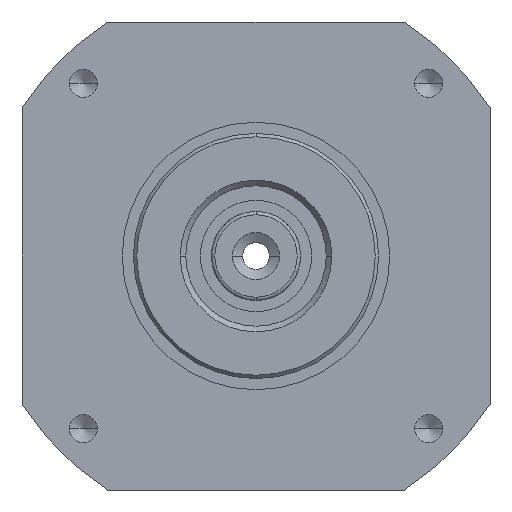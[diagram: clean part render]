
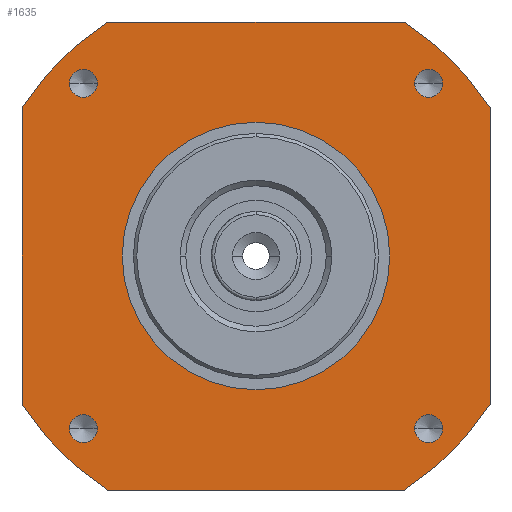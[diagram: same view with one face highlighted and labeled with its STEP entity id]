
A CAD part, front view. The second image highlights one B-rep face of the part: STEP entity #1635.
In plain terms, the highlighted free-form (B-spline) face has degree [1, 1] with [2, 2] control points.
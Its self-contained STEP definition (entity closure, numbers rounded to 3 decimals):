
#2=CARTESIAN_POINT('',(15.5,0.,-15.5));
#3=DIRECTION('',(0.,-1.,0.));
#4=DIRECTION('',(-1.,0.,0.));
#5=AXIS2_PLACEMENT_3D('',#2,#3,#4);
#7=CARTESIAN_POINT('',(15.5,0.,-15.5));
#8=DIRECTION('',(0.,-1.,0.));
#9=DIRECTION('',(1.,0.,0.));
#10=AXIS2_PLACEMENT_3D('',#7,#8,#9);
#12=CARTESIAN_POINT('',(15.5,0.,15.5));
#13=DIRECTION('',(0.,-1.,0.));
#14=DIRECTION('',(-1.,0.,0.));
#15=AXIS2_PLACEMENT_3D('',#12,#13,#14);
#17=CARTESIAN_POINT('',(15.5,0.,15.5));
#18=DIRECTION('',(0.,-1.,0.));
#19=DIRECTION('',(1.,0.,0.));
#20=AXIS2_PLACEMENT_3D('',#17,#18,#19);
#22=CARTESIAN_POINT('',(-15.5,0.,-15.5));
#23=DIRECTION('',(0.,-1.,0.));
#24=DIRECTION('',(-1.,0.,0.));
#25=AXIS2_PLACEMENT_3D('',#22,#23,#24);
#27=CARTESIAN_POINT('',(-15.5,0.,-15.5));
#28=DIRECTION('',(0.,-1.,0.));
#29=DIRECTION('',(1.,0.,0.));
#30=AXIS2_PLACEMENT_3D('',#27,#28,#29);
#32=CARTESIAN_POINT('',(-15.5,0.,15.5));
#33=DIRECTION('',(0.,-1.,0.));
#34=DIRECTION('',(-1.,0.,0.));
#35=AXIS2_PLACEMENT_3D('',#32,#33,#34);
#37=CARTESIAN_POINT('',(-15.5,0.,15.5));
#38=DIRECTION('',(0.,-1.,0.));
#39=DIRECTION('',(1.,0.,0.));
#40=AXIS2_PLACEMENT_3D('',#37,#38,#39);
#42=CARTESIAN_POINT('',(0.,0.,0.));
#43=DIRECTION('',(0.,-1.,0.));
#44=DIRECTION('',(-1.,0.,0.));
#45=AXIS2_PLACEMENT_3D('',#42,#43,#44);
#47=CARTESIAN_POINT('',(0.,0.,0.));
#48=DIRECTION('',(0.,-1.,0.));
#49=DIRECTION('',(1.,0.,0.));
#50=AXIS2_PLACEMENT_3D('',#47,#48,#49);
#52=CARTESIAN_POINT('',(0.,0.,0.));
#53=DIRECTION('',(0.,-1.,0.));
#54=DIRECTION('',(-0.845,0.,-0.535));
#55=AXIS2_PLACEMENT_3D('',#52,#53,#54);
#57=DIRECTION('',(0.,0.,1.));
#58=VECTOR('',#57,26.572);
#59=CARTESIAN_POINT('',(-21.,0.,-13.286));
#60=LINE('',#59,#58);
#61=CARTESIAN_POINT('',(0.,0.,0.));
#62=DIRECTION('',(0.,-1.,0.));
#63=DIRECTION('',(-0.535,0.,0.845));
#64=AXIS2_PLACEMENT_3D('',#61,#62,#63);
#66=DIRECTION('',(1.,0.,0.));
#67=VECTOR('',#66,26.572);
#68=CARTESIAN_POINT('',(-13.286,0.,21.));
#69=LINE('',#68,#67);
#70=CARTESIAN_POINT('',(0.,0.,0.));
#71=DIRECTION('',(0.,-1.,0.));
#72=DIRECTION('',(0.845,0.,0.535));
#73=AXIS2_PLACEMENT_3D('',#70,#71,#72);
#75=DIRECTION('',(0.,0.,-1.));
#76=VECTOR('',#75,26.572);
#77=CARTESIAN_POINT('',(21.,0.,13.286));
#78=LINE('',#77,#76);
#79=CARTESIAN_POINT('',(0.,0.,0.));
#80=DIRECTION('',(0.,-1.,0.));
#81=DIRECTION('',(0.535,0.,-0.845));
#82=AXIS2_PLACEMENT_3D('',#79,#80,#81);
#84=DIRECTION('',(-1.,0.,0.));
#85=VECTOR('',#84,26.572);
#86=CARTESIAN_POINT('',(13.286,0.,-21.));
#87=LINE('',#86,#85);
#1348=CARTESIAN_POINT('',(14.25,0.,-15.5));
#1349=CARTESIAN_POINT('',(16.75,0.,-15.5));
#1350=VERTEX_POINT('',#1348);
#1351=VERTEX_POINT('',#1349);
#1358=CARTESIAN_POINT('',(14.25,0.,15.5));
#1359=CARTESIAN_POINT('',(16.75,0.,15.5));
#1360=VERTEX_POINT('',#1358);
#1361=VERTEX_POINT('',#1359);
#1368=CARTESIAN_POINT('',(-16.75,0.,-15.5));
#1369=CARTESIAN_POINT('',(-14.25,0.,-15.5));
#1370=VERTEX_POINT('',#1368);
#1371=VERTEX_POINT('',#1369);
#1378=CARTESIAN_POINT('',(-16.75,0.,15.5));
#1379=CARTESIAN_POINT('',(-14.25,0.,15.5));
#1380=VERTEX_POINT('',#1378);
#1381=VERTEX_POINT('',#1379);
#1410=CARTESIAN_POINT('',(-12.,0.,0.));
#1411=CARTESIAN_POINT('',(12.,0.,0.));
#1412=VERTEX_POINT('',#1410);
#1413=VERTEX_POINT('',#1411);
#1414=CARTESIAN_POINT('',(-21.,0.,-13.286));
#1415=CARTESIAN_POINT('',(-13.286,0.,-21.));
#1416=VERTEX_POINT('',#1414);
#1417=VERTEX_POINT('',#1415);
#1418=CARTESIAN_POINT('',(13.286,0.,-21.));
#1419=CARTESIAN_POINT('',(21.,0.,-13.286));
#1420=VERTEX_POINT('',#1418);
#1421=VERTEX_POINT('',#1419);
#1426=CARTESIAN_POINT('',(21.,0.,13.286));
#1427=CARTESIAN_POINT('',(13.286,0.,21.));
#1428=VERTEX_POINT('',#1426);
#1429=VERTEX_POINT('',#1427);
#1430=CARTESIAN_POINT('',(-13.286,0.,21.));
#1431=CARTESIAN_POINT('',(-21.,0.,13.286));
#1432=VERTEX_POINT('',#1430);
#1433=VERTEX_POINT('',#1431);
#1582=CARTESIAN_POINT('',(-21.84,0.,21.84));
#1583=CARTESIAN_POINT('',(-21.84,0.,-21.84));
#1584=CARTESIAN_POINT('',(21.84,0.,21.84));
#1585=CARTESIAN_POINT('',(21.84,0.,-21.84));
#1586=B_SPLINE_SURFACE_WITH_KNOTS('',1,1,((#1582,#1583),(#1584,#1585)),
.UNSPECIFIED.,.F.,.F.,.F.,(2,2),(2,2),(-21.84,21.84),(-21.84,21.84),
.UNSPECIFIED.);
#1588=ORIENTED_EDGE('',*,*,#1587,.F.);
#1590=ORIENTED_EDGE('',*,*,#1589,.T.);
#1592=ORIENTED_EDGE('',*,*,#1591,.F.);
#1594=ORIENTED_EDGE('',*,*,#1593,.T.);
#1596=ORIENTED_EDGE('',*,*,#1595,.F.);
#1598=ORIENTED_EDGE('',*,*,#1597,.T.);
#1600=ORIENTED_EDGE('',*,*,#1599,.F.);
#1602=ORIENTED_EDGE('',*,*,#1601,.T.);
#1603=EDGE_LOOP('',(#1588,#1590,#1592,#1594,#1596,#1598,#1600,#1602));
#1604=FACE_OUTER_BOUND('',#1603,.F.);
#1606=ORIENTED_EDGE('',*,*,#1605,.T.);
#1608=ORIENTED_EDGE('',*,*,#1607,.T.);
#1609=EDGE_LOOP('',(#1606,#1608));
#1610=FACE_BOUND('',#1609,.F.);
#1612=ORIENTED_EDGE('',*,*,#1611,.T.);
#1614=ORIENTED_EDGE('',*,*,#1613,.T.);
#1615=EDGE_LOOP('',(#1612,#1614));
#1616=FACE_BOUND('',#1615,.F.);
#1618=ORIENTED_EDGE('',*,*,#1617,.T.);
#1620=ORIENTED_EDGE('',*,*,#1619,.T.);
#1621=EDGE_LOOP('',(#1618,#1620));
#1622=FACE_BOUND('',#1621,.F.);
#1624=ORIENTED_EDGE('',*,*,#1623,.T.);
#1626=ORIENTED_EDGE('',*,*,#1625,.T.);
#1627=EDGE_LOOP('',(#1624,#1626));
#1628=FACE_BOUND('',#1627,.F.);
#1630=ORIENTED_EDGE('',*,*,#1629,.T.);
#1632=ORIENTED_EDGE('',*,*,#1631,.T.);
#1633=EDGE_LOOP('',(#1630,#1632));
#1634=FACE_BOUND('',#1633,.F.);
#1635=ADVANCED_FACE('',(#1604,#1610,#1616,#1622,#1628,#1634),#1586,.F.);
#6=CIRCLE('',#5,1.25);
#11=CIRCLE('',#10,1.25);
#16=CIRCLE('',#15,1.25);
#21=CIRCLE('',#20,1.25);
#26=CIRCLE('',#25,1.25);
#31=CIRCLE('',#30,1.25);
#36=CIRCLE('',#35,1.25);
#41=CIRCLE('',#40,1.25);
#46=CIRCLE('',#45,12.);
#51=CIRCLE('',#50,12.);
#56=CIRCLE('',#55,24.85);
#65=CIRCLE('',#64,24.85);
#74=CIRCLE('',#73,24.85);
#83=CIRCLE('',#82,24.85);
#1587=EDGE_CURVE('',#1416,#1417,#56,.T.);
#1589=EDGE_CURVE('',#1416,#1433,#60,.T.);
#1591=EDGE_CURVE('',#1432,#1433,#65,.T.);
#1593=EDGE_CURVE('',#1432,#1429,#69,.T.);
#1595=EDGE_CURVE('',#1428,#1429,#74,.T.);
#1597=EDGE_CURVE('',#1428,#1421,#78,.T.);
#1599=EDGE_CURVE('',#1420,#1421,#83,.T.);
#1601=EDGE_CURVE('',#1420,#1417,#87,.T.);
#1605=EDGE_CURVE('',#1350,#1351,#6,.T.);
#1607=EDGE_CURVE('',#1351,#1350,#11,.T.);
#1611=EDGE_CURVE('',#1360,#1361,#16,.T.);
#1613=EDGE_CURVE('',#1361,#1360,#21,.T.);
#1617=EDGE_CURVE('',#1370,#1371,#26,.T.);
#1619=EDGE_CURVE('',#1371,#1370,#31,.T.);
#1623=EDGE_CURVE('',#1380,#1381,#36,.T.);
#1625=EDGE_CURVE('',#1381,#1380,#41,.T.);
#1629=EDGE_CURVE('',#1412,#1413,#46,.T.);
#1631=EDGE_CURVE('',#1413,#1412,#51,.T.);
